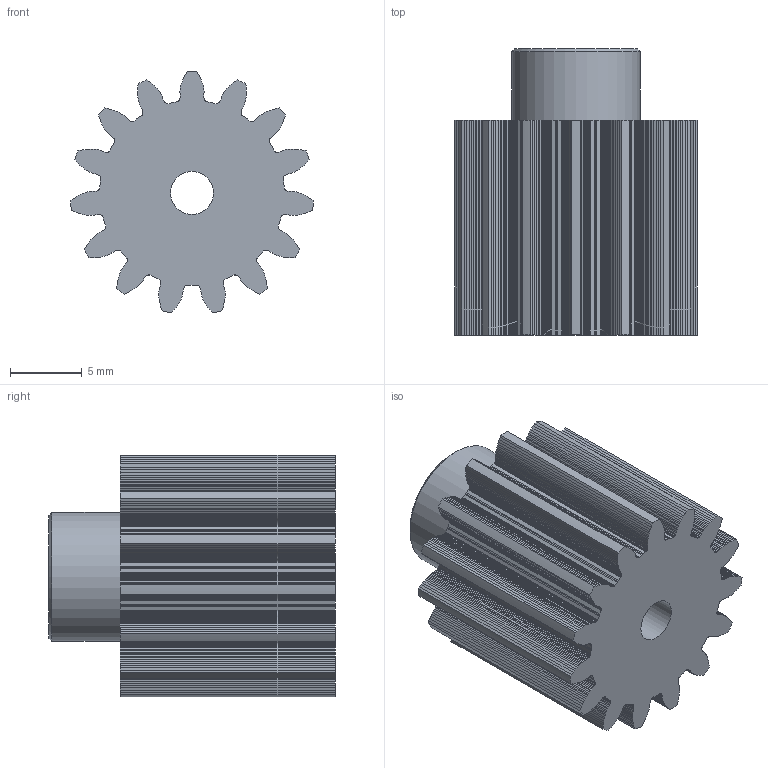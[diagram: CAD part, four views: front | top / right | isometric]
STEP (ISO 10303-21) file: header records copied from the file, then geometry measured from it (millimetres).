
FILE_DESCRIPTION(/* description */ ('www.motedis.com/part/PNM1-15','CAx-IF Rec.Pracs.---Representation and Presentation of Product Manufacturing Information (PMI)---4.0---2014-10-13'),/* implementation_level */ '2;1');
FILE_NAME(/* name */ 'Motedis_PNM1-15.stp',/* time_stamp */ '2026-07-01T13:46:04+02:00',/* author */ ('Motedis'),/* organization */ ('Motedis GmbH'),/* preprocessor_version */ 'ST-DEVELOPER v20.1',/* originating_system */ 'Autodesk Inventor 2026',/* authorisation */ 'Motedis GmbH');
FILE_SCHEMA (('AP242_MANAGED_MODEL_BASED_3D_ENGINEERING_MIM_LF { 1 0 10303 442 2 1 4 }'));
Length unit declared in the file: millimetre
Products named in the file (1): Motedis_PNM1-15
Bounding box: 16.96 x 20 x 16.88 mm (x, y, z)
Volume: 2796 mm3; surface area: 2000.9 mm2
Topology: 1 solids, 1 shells, 801 faces, 2394 edges, 1596 vertices
Faces by surface type: plane 783, cylinder 17, cone 1
Full cylindrical faces by diameter (mm): 3 x1, 9 x1
Entity records: 32267 total; most frequent: CARTESIAN_POINT 7226, ORIENTED_EDGE 4788, DIRECTION 4100, EDGE_CURVE 2394, LINE 2358, VECTOR 2358, STYLED_ITEM 1604, VERTEX_POINT 1596
